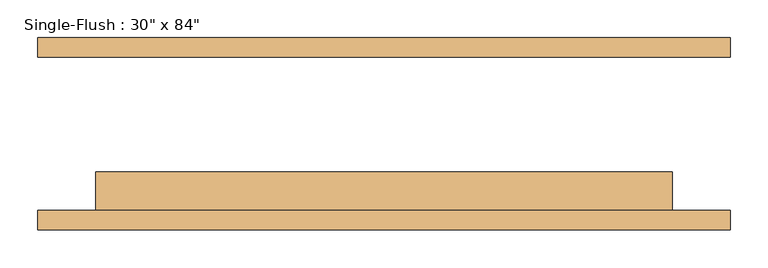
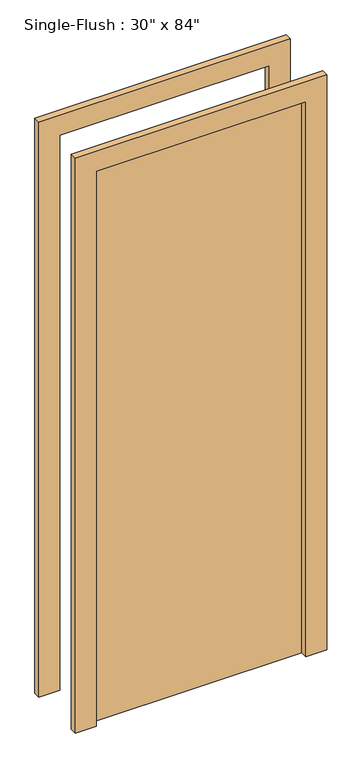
"""IFC4 building model written with IfcOpenShell, lengths in millimetres: door geometry."""

from ifc_helpers import new_model, si_unit, frame, origin, origin_with_axes, place, context, project, spatial, polyline, outline, extrude, source, transform, mapped, element, save


def door_4314e8ec(model_context):
    return source(origin(), model_context, "Body", "SweptSolid", [
        extrude(outline(polyline([(2209.8, -457.2), (0.0, -457.2), (0.0, -381.0), (2133.6, -381.0), (2133.6, 381.0), (0.0, 381.0), (0.0, 457.2), (2209.8, 457.2), (2209.8, -457.2)])), frame((0.0, -127.0, 0.0), z_axis=(0.0, 1.0, 0.0), x_axis=(0.0, 0.0, 1.0)), (0.0, 0.0, 1.0), 25.4),
        extrude(outline(polyline([(2209.8, 457.2), (2209.8, -457.2), (0.0, -457.2), (0.0, -381.0), (2133.6, -381.0), (2133.6, 381.0), (0.0, 381.0), (0.0, 457.2), (2209.8, 457.2)])), frame((0.0, 101.6, 0.0), z_axis=(0.0, 1.0, 0.0), x_axis=(0.0, 0.0, 1.0)), (0.0, 0.0, 1.0), 25.4),
        extrude(outline(polyline([(381.0, -50.8), (381.0, -101.6), (-381.0, -101.6), (-381.0, -50.8), (381.0, -50.8)])), origin_with_axes(), (0.0, 0.0, 1.0), 2133.6),
    ])


if __name__ == "__main__":
    model = new_model("IFC4")
    model_context = context("Model", 3, world=origin())
    ifc_project = project(units=[si_unit("LENGTHUNIT", "METRE", prefix="MILLI")], contexts=[model_context])
    site = spatial("IfcSite", under=ifc_project)
    building = spatial("IfcBuilding", under=site)
    placement = place(None, origin())
    door_shape = door_4314e8ec(model_context)
    element("IfcDoor", 1, ObjectType="Single-Flush : 30\" x 84\"", at=placement, inside=building, context=model_context, shape_type="MappedRepresentation", body=[
        mapped(door_shape, transform((0.0, 0.0, 0.0), x_axis=(1.0, 0.0, 0.0), y_axis=(0.0, 1.0, 0.0), z_axis=(0.0, 0.0, 1.0))),
    ])
    save(model, "model.ifc")
